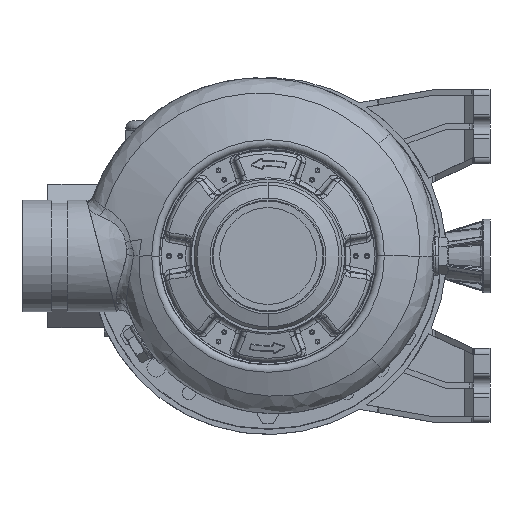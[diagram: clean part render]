
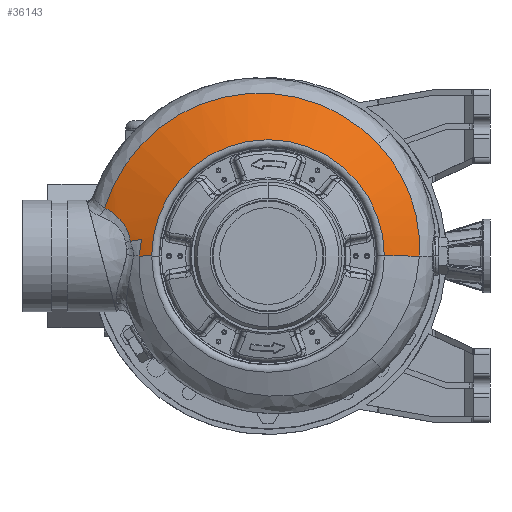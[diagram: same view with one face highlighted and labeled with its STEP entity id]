
A CAD part, left-side view. The second image highlights one B-rep face of the part: STEP entity #36143.
In plain terms, the highlighted spherical face has radius 172 mm.
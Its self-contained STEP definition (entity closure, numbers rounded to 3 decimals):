
#25510=CARTESIAN_POINT('',(0.,0.,36.093));
#25511=DIRECTION('',(0.,0.,-1.));
#25512=DIRECTION('',(0.,1.,0.));
#25513=AXIS2_PLACEMENT_3D('',#25510,#25511,#25512);
#25518=CARTESIAN_POINT('',(0.,0.,-124.));
#25519=DIRECTION('',(1.,0.,0.));
#25520=DIRECTION('',(0.,0.405,0.914));
#25521=AXIS2_PLACEMENT_3D('',#25518,#25519,#25520);
#25526=CARTESIAN_POINT('',(9.009,68.431,33.544));
#25527=CARTESIAN_POINT('',(8.266,68.578,33.522));
#25528=CARTESIAN_POINT('',(6.775,68.847,33.48));
#25529=CARTESIAN_POINT('',(4.526,69.175,33.417));
#25530=CARTESIAN_POINT('',(2.643,69.386,33.365));
#25531=CARTESIAN_POINT('',(1.134,69.517,33.323));
#25532=CARTESIAN_POINT('',(0.378,69.57,
33.302));
#25533=CARTESIAN_POINT('',(0.,69.594,
33.292));
#25538=CARTESIAN_POINT('',(9.009,68.431,33.544));
#25539=CARTESIAN_POINT('',(8.707,70.44,32.688));
#25540=CARTESIAN_POINT('',(8.356,72.427,31.799));
#25541=CARTESIAN_POINT('',(7.957,74.388,30.878));
#25546=CARTESIAN_POINT('',(7.957,74.388,30.878));
#25547=CARTESIAN_POINT('',(10.071,74.682,30.628));
#25548=CARTESIAN_POINT('',(14.185,75.867,29.757));
#25549=CARTESIAN_POINT('',(18.437,78.68,27.861));
#25550=CARTESIAN_POINT('',(21.255,81.382,26.042));
#25551=CARTESIAN_POINT('',(23.108,83.57,24.558));
#25552=CARTESIAN_POINT('',(24.422,85.507,23.235));
#25553=CARTESIAN_POINT('',(25.38,87.089,22.138));
#25554=CARTESIAN_POINT('',(25.789,87.907,21.573));
#25555=CARTESIAN_POINT('',(26.018,88.303,21.291));
#25560=CARTESIAN_POINT('',(26.018,88.303,21.291));
#25561=CARTESIAN_POINT('',(29.663,87.18,21.321));
#25562=CARTESIAN_POINT('',(36.812,84.458,21.395));
#25563=CARTESIAN_POINT('',(46.935,79.,21.547));
#25564=CARTESIAN_POINT('',(56.228,72.298,21.737));
#25565=CARTESIAN_POINT('',(64.596,64.424,21.962));
#25566=CARTESIAN_POINT('',(71.869,55.528,22.218));
#25567=CARTESIAN_POINT('',(77.927,45.75,22.5));
#25568=CARTESIAN_POINT('',(82.651,35.291,22.803));
#25569=CARTESIAN_POINT('',(85.978,24.305,23.123));
#25570=CARTESIAN_POINT('',(87.85,12.961,23.453));
#25571=CARTESIAN_POINT('',(88.229,1.46,23.789));
#25572=CARTESIAN_POINT('',(87.106,-9.991,
24.124));
#25573=CARTESIAN_POINT('',(84.51,-21.173,
24.451));
#25574=CARTESIAN_POINT('',(80.472,-31.944,
24.768));
#25575=CARTESIAN_POINT('',(75.076,-42.085,
25.066));
#25576=CARTESIAN_POINT('',(68.376,-51.473,
25.343));
#25577=CARTESIAN_POINT('',(63.161,-57.065,
25.509));
#25578=CARTESIAN_POINT('',(60.385,-59.678,
25.586));
#25583=CARTESIAN_POINT('',(60.385,-59.678,
25.586));
#25584=CARTESIAN_POINT('',(57.738,-62.171,
25.661));
#25585=CARTESIAN_POINT('',(52.092,-66.819,
25.819));
#25586=CARTESIAN_POINT('',(42.734,-72.619,
26.083));
#25587=CARTESIAN_POINT('',(32.595,-77.146,
26.37));
#25588=CARTESIAN_POINT('',(21.97,-80.25,
26.672));
#25589=CARTESIAN_POINT('',(11.026,-81.898,
26.983));
#25590=CARTESIAN_POINT('',(3.664,-82.005,
27.193));
#25591=CARTESIAN_POINT('',(0.,-81.811,
27.297));
#25596=CARTESIAN_POINT('',(0.,0.,-124.));
#25597=DIRECTION('',(-1.,0.,0.));
#25598=DIRECTION('',(0.,-0.476,0.88));
#25599=AXIS2_PLACEMENT_3D('',#25596,#25597,#25598);
#25628=CARTESIAN_POINT('',(0.,-81.811,
27.297));
#25751=CARTESIAN_POINT('',(7.957,74.388,30.878));
#25759=CARTESIAN_POINT('',(26.018,88.303,21.291));
#29533=VERTEX_POINT('',#25628);
#29534=VERTEX_POINT('',#25583);
#29537=VERTEX_POINT('',#25526);
#29538=VERTEX_POINT('',#25533);
#29578=VERTEX_POINT('',#25751);
#29580=VERTEX_POINT('',#25759);
#29658=CARTESIAN_POINT('',(0.,62.883,36.093));
#29659=CARTESIAN_POINT('',(0.,-62.883,36.093));
#29660=VERTEX_POINT('',#29658);
#29661=VERTEX_POINT('',#29659);
#36121=CARTESIAN_POINT('',(0.,0.,-124.));
#36122=DIRECTION('',(0.,0.,1.));
#36123=DIRECTION('',(0.,1.,0.));
#36124=AXIS2_PLACEMENT_3D('',#36121,#36122,#36123);
#36125=SPHERICAL_SURFACE('',#36124,172.);
#36127=ORIENTED_EDGE('',*,*,#36126,.F.);
#36129=ORIENTED_EDGE('',*,*,#36128,.F.);
#36131=ORIENTED_EDGE('',*,*,#36130,.F.);
#36133=ORIENTED_EDGE('',*,*,#36132,.T.);
#36135=ORIENTED_EDGE('',*,*,#36134,.T.);
#36137=ORIENTED_EDGE('',*,*,#36136,.T.);
#36138=ORIENTED_EDGE('',*,*,#36111,.T.);
#36140=ORIENTED_EDGE('',*,*,#36139,.T.);
#36141=EDGE_LOOP('',(#36127,#36129,#36131,#36133,#36135,#36137,#36138,#36140));
#36142=FACE_OUTER_BOUND('',#36141,.F.);
#25514=CIRCLE('',#25513,62.883);
#25522=CIRCLE('',#25521,172.);
#25534=B_SPLINE_CURVE_WITH_KNOTS('',3,(#25526,#25527,#25528,#25529,#25530,
#25531,#25532,#25533),.UNSPECIFIED.,.F.,.F.,(4,1,1,1,1,4),(0.,0.25,0.5,
0.75,0.875,1.),.UNSPECIFIED.);
#25542=B_SPLINE_CURVE_WITH_KNOTS('',3,(#25538,#25539,#25540,#25541),
.UNSPECIFIED.,.F.,.F.,(4,4),(0.,1.),.UNSPECIFIED.);
#25556=B_SPLINE_CURVE_WITH_KNOTS('',3,(#25546,#25547,#25548,#25549,#25550,
#25551,#25552,#25553,#25554,#25555),.UNSPECIFIED.,.F.,.F.,(4,1,1,1,1,1,1,4),(
0.,0.25,0.5,0.625,0.75,0.875,0.938,1.),.UNSPECIFIED.);
#25579=B_SPLINE_CURVE_WITH_KNOTS('',3,(#25560,#25561,#25562,#25563,#25564,
#25565,#25566,#25567,#25568,#25569,#25570,#25571,#25572,#25573,#25574,#25575,
#25576,#25577,#25578),.UNSPECIFIED.,.F.,.F.,(4,1,1,1,1,1,1,1,1,1,1,1,1,1,1,1,4),
(0.,0.063,0.125,0.188,0.25,0.313,0.375,0.438,0.5,0.563,
0.625,0.688,0.75,0.813,0.875,0.938,1.),.UNSPECIFIED.);
#25592=B_SPLINE_CURVE_WITH_KNOTS('',3,(#25583,#25584,#25585,#25586,#25587,
#25588,#25589,#25590,#25591),.UNSPECIFIED.,.F.,.F.,(4,1,1,1,1,1,4),(0.,
0.167,0.333,0.5,0.667,0.833,
1.),.UNSPECIFIED.);
#25600=CIRCLE('',#25599,172.);
#36111=EDGE_CURVE('',#29534,#29533,#25592,.T.);
#36126=EDGE_CURVE('',#29660,#29661,#25514,.T.);
#36128=EDGE_CURVE('',#29538,#29660,#25522,.T.);
#36130=EDGE_CURVE('',#29537,#29538,#25534,.T.);
#36132=EDGE_CURVE('',#29537,#29578,#25542,.T.);
#36134=EDGE_CURVE('',#29578,#29580,#25556,.T.);
#36136=EDGE_CURVE('',#29580,#29534,#25579,.T.);
#36139=EDGE_CURVE('',#29533,#29661,#25600,.T.);
#36143=ADVANCED_FACE('',(#36142),#36125,.T.);
